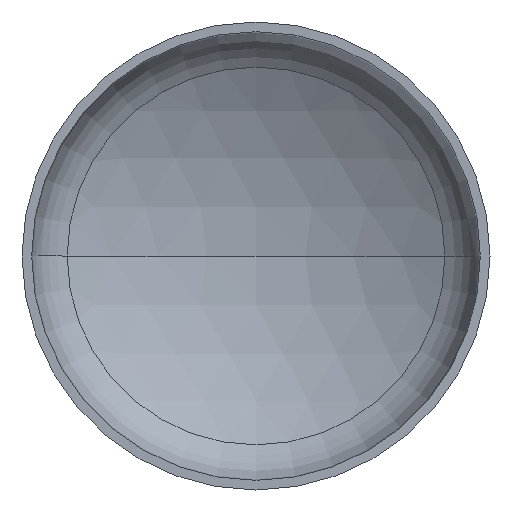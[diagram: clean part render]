
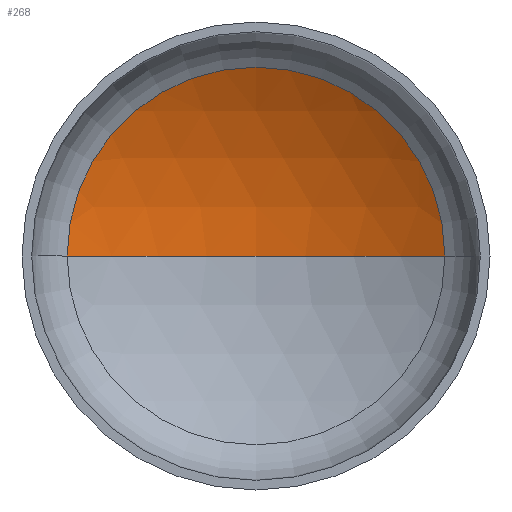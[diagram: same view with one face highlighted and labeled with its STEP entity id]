
A CAD part, front view. The second image highlights one B-rep face of the part: STEP entity #268.
In plain terms, the highlighted spherical face has radius 1280 mm.
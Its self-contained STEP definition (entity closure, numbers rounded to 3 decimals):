
#1 = AXIS2_PLACEMENT_3D ( 'NONE', #295, #120, #126 ) ;
#4 = AXIS2_PLACEMENT_3D ( 'NONE', #41, #70, #83 ) ;
#15 = AXIS2_PLACEMENT_3D ( 'NONE', #158, #153, #245 ) ;
#41 = CARTESIAN_POINT ( 'NONE',  ( 0., -793.723, 0. ) ) ;
#49 = CARTESIAN_POINT ( 'NONE',  ( 645.565, 311.558, 0. ) ) ;
#58 = VERTEX_POINT ( 'NONE', #204 ) ;
#62 = DIRECTION ( 'NONE',  ( 1., 0., 0. ) ) ;
#70 = DIRECTION ( 'NONE',  ( 0., 0., 1. ) ) ;
#83 = DIRECTION ( 'NONE',  ( 1., 0., 0. ) ) ;
#84 = ORIENTED_EDGE ( 'NONE', *, *, #355, .T. ) ;
#94 = CIRCLE ( 'NONE', #1, 1280. ) ;
#120 = DIRECTION ( 'NONE',  ( 0., 0., -1. ) ) ;
#126 = DIRECTION ( 'NONE',  ( -1., 0., 0. ) ) ;
#131 = VERTEX_POINT ( 'NONE', #151 ) ;
#134 = ORIENTED_EDGE ( 'NONE', *, *, #340, .F. ) ;
#139 = EDGE_LOOP ( 'NONE', ( #134, #84, #215 ) ) ;
#151 = CARTESIAN_POINT ( 'NONE',  ( -645.565, 311.558, 0. ) ) ;
#153 = DIRECTION ( 'NONE',  ( 0., 0., -1. ) ) ;
#158 = CARTESIAN_POINT ( 'NONE',  ( 0., -793.723, 0. ) ) ;
#204 = CARTESIAN_POINT ( 'NONE',  ( 0., 486.277, 0. ) ) ;
#210 = FACE_OUTER_BOUND ( 'NONE', #139, .T. ) ;
#215 = ORIENTED_EDGE ( 'NONE', *, *, #362, .T. ) ;
#231 = DIRECTION ( 'NONE',  ( 0., -1., 0. ) ) ;
#243 = CIRCLE ( 'NONE', #368, 645.565 ) ;
#245 = DIRECTION ( 'NONE',  ( -1., 0., 0. ) ) ;
#268 = ADVANCED_FACE ( 'NONE', ( #210 ), #364, .F. ) ;
#295 = CARTESIAN_POINT ( 'NONE',  ( 0., -793.723, 0. ) ) ;
#322 = VERTEX_POINT ( 'NONE', #49 ) ;
#340 = EDGE_CURVE ( 'NONE', #58, #131, #403, .T. ) ;
#355 = EDGE_CURVE ( 'NONE', #58, #322, #94, .T. ) ;
#362 = EDGE_CURVE ( 'NONE', #322, #131, #243, .T. ) ;
#364 = SPHERICAL_SURFACE ( 'NONE', #15, 1280. ) ;
#366 = CARTESIAN_POINT ( 'NONE',  ( 0., 311.558, 0. ) ) ;
#368 = AXIS2_PLACEMENT_3D ( 'NONE', #366, #231, #62 ) ;
#403 = CIRCLE ( 'NONE', #4, 1280. ) ;
